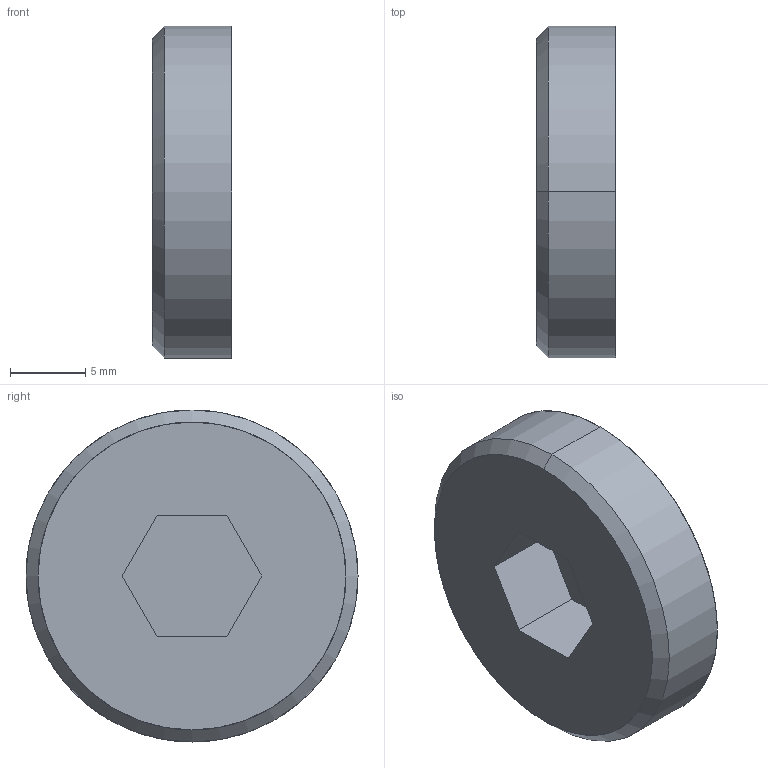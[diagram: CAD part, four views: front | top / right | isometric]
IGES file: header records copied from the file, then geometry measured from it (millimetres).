
Start section: Parasolid data in IGES format
Global section: file name: JZG030.igs; native system: Parasolid(11.1); preprocessor: Pariges 4.4; author: noname; organization: noname; date: 20050926.195147; units: millimetre
Bounding box: 5.3 x 22 x 22 mm (x, y, z)
Surface area: 1231.4 mm2 (no closed solid volume)
Topology: 0 solids, 0 shells, 13 faces, 116 edges, 116 vertices
Faces by surface type: extrusion 9, revolution 4
